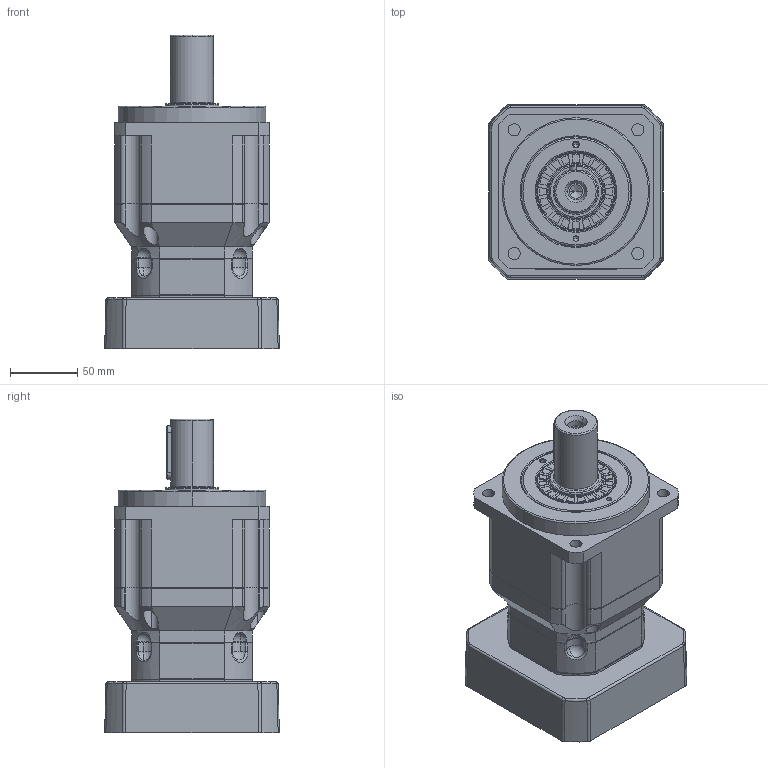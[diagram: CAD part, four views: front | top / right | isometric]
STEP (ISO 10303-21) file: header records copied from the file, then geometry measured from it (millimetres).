
FILE_DESCRIPTION (( 'STEP AP214' ), '1' );
FILE_NAME ('PAB115-L2-S2-P2 22-110-145-M8.STEP', '2021-04-25T08:30:02', ( 'User' ), ( 'china' ), 'SwSTEP 2.0', 'SolidWorks 2016', '' );
FILE_SCHEMA (( 'AUTOMOTIVE_DESIGN' ));
Length unit declared in the file: millimetre
Products named in the file (13): 楊擘耜謂蹟佪M10; 输入轴锁紧环26x52x14; 输入轴PAB090-5M1-22; M6-14; PAB090M1-110-145-M8; 输入端壳体PAB090M1; 一级内齿圈壳体PAB090D; 蚐猾40x58X5; す瑩10X40; 隅弇覃淕杶PAB115D; 怀堤俴陎殤PAB115D; 输出内齿圈壳体PAB115D; PAB115-L2-S2-P2 22-110-145-M8
Assembly tree (22 placements, depth 2):
  PAB115-L2-S2-P2 22-110-145-M8
    输出内齿圈壳体PAB115D
    怀堤俴陎殤PAB115D
    隅弇覃淕杶PAB115D
    す瑩10X40
    蚐猾40x58X5
    一级内齿圈壳体PAB090D
    输入端壳体PAB090M1
    PAB090M1-110-145-M8
    M6-14  x11
    输入轴PAB090-5M1-22
    输入轴锁紧环26x52x14
    楊擘耜謂蹟佪M10
Bounding box: 130 x 130 x 233.5 mm (x, y, z)
Volume: 1796970.2 mm3; surface area: 257814.6 mm2
Topology: 22 solids, 22 shells, 1410 faces, 3427 edges, 2085 vertices
Faces by surface type: bspline 387, plane 367, cylinder 349, cone 239, torus 60, sphere 8
Entity records: 68064 total; most frequent: CARTESIAN_POINT 29427, ORIENTED_EDGE 5718, DIRECTION 4611, EDGE_CURVE 2859, AXIS2_PLACEMENT_3D 1857, VERTEX_POINT 1771, EDGE_LOOP 1280, UNCERTAINTY_MEASURE_WITH_UNIT 1217
